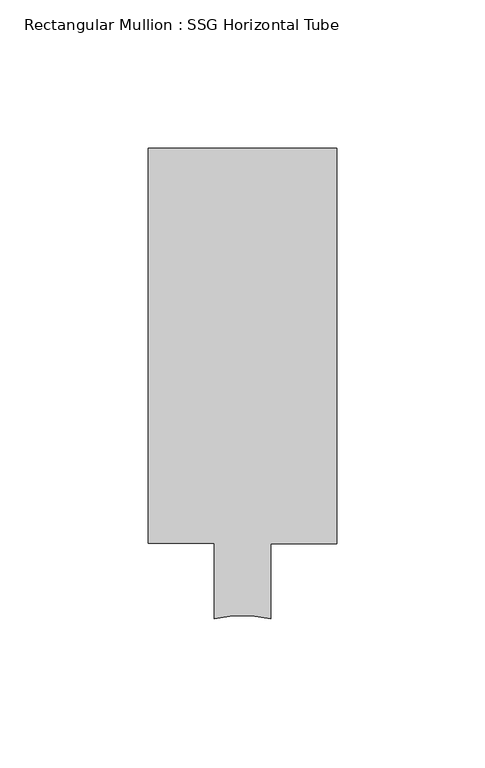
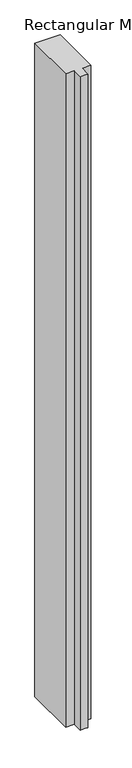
"""IFC4 building model written with IfcOpenShell, lengths in millimetres: member geometry, Rectangular Mullion : SSG Horizontal Tube."""

from ifc_helpers import new_model, si_unit, point, frame, frame_2d, origin, place, context, project, spatial, polyline, circle_curve, trimmed, segment, composite_curve, outline, extrude, source, transform, mapped, element, save


def rectangular_mullion_ssg_horizontal_tube_24e7f777(model_context):
    return source(origin(), model_context, "Body", "SweptSolid", [
        extrude(outline(composite_curve([segment(polyline([(31.7705663, 114.3), (31.7705663, -19.05), (9.5552592, -19.05), (9.5552592, -44.4572901)]), True, "CONTINUOUS"), segment(trimmed(circle_curve(frame_2d((0.020565, -81.9595202)), 38.6953183), [point((9.5552592, -44.4572901))], [point((-9.4947442, -44.4523669))], True, "CARTESIAN"), True, "CONTINUOUS"), segment(polyline([(-9.4947442, -44.4523669), (-9.4947442, -18.9488461), (-31.75, -18.9488461), (-31.75, 114.3), (31.7705663, 114.3)]), True, "CONTINUOUS")], self_intersect=False)), frame((0.0, 0.0, -1733.5294337), z_axis=(0.0, 0.0, 1.0), x_axis=(1.0, 0.0, 0.0)), (0.0, 0.0, 1.0), 1733.5294337),
    ])


if __name__ == "__main__":
    model = new_model("IFC4")
    model_context = context("Model", 3, world=origin())
    ifc_project = project(units=[si_unit("LENGTHUNIT", "METRE", prefix="MILLI")], contexts=[model_context])
    site = spatial("IfcSite", under=ifc_project)
    building = spatial("IfcBuilding", under=site)
    placement = place(None, origin())
    rectangular_mullion_ssg_horizontal_tube_shape = rectangular_mullion_ssg_horizontal_tube_24e7f777(model_context)
    element("IfcMember", 1, ObjectType="Rectangular Mullion : SSG Horizontal Tube", at=placement, inside=building, context=model_context, shape_type="MappedRepresentation", body=[
        mapped(rectangular_mullion_ssg_horizontal_tube_shape, transform((0.0, 0.0, 0.0), x_axis=(1.0, 0.0, 0.0), y_axis=(0.0, 1.0, 0.0), z_axis=(0.0, 0.0, 1.0))),
    ])
    save(model, "model.ifc")
